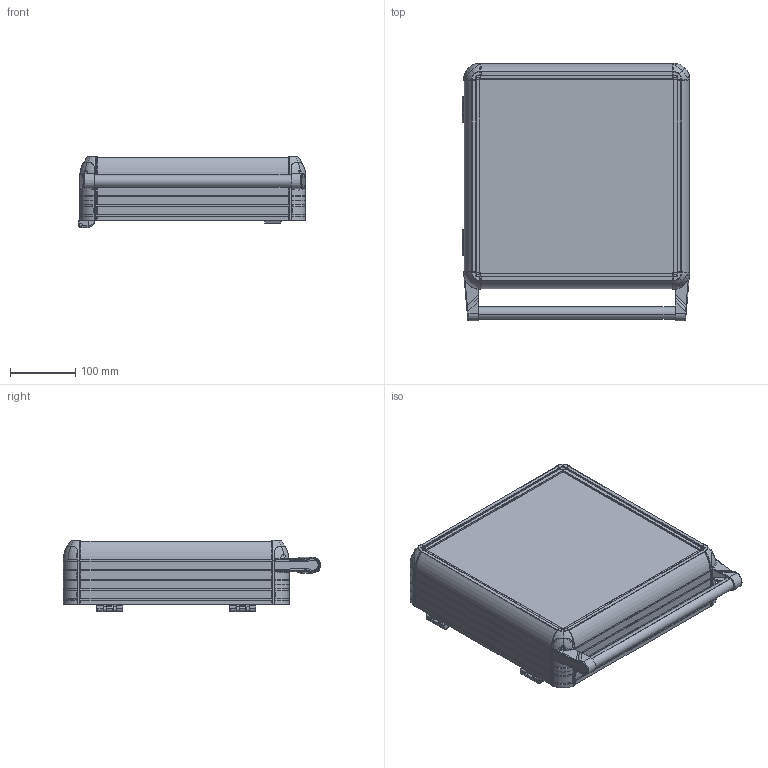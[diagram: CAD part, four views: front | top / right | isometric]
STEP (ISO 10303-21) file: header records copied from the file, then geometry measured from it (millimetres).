
FILE_DESCRIPTION (( 'STEP AP214' ), '1' );
FILE_NAME ('9000-0104.STEP', '2022-09-01T06:15:15', ( '' ), ( '' ), 'SwSTEP 2.0', 'SolidWorks 2022', '' );
FILE_SCHEMA (( 'AUTOMOTIVE_DESIGN' ));
Length unit declared in the file: millimetre
Products named in the file (8): ECO9000-0000; 300X300; boru_325; 9000-0104; ARKA_KAPAK_300X300; ECO9000-0100(SOL); ECO9000-0100(SAÐ); HPECO-090-001-295_295
Assembly tree (11 placements, depth 2):
  9000-0104
    300X300
    ARKA_KAPAK_300X300
    HPECO-090-001-295_295  x4
    ECO9000-0100(SAÐ)
    ECO9000-0100(SOL)
    ECO9000-0000  x2
    boru_325
Bounding box: 349.03 x 395.78 x 109.16 mm (x, y, z)
Volume: 2377580.2 mm3; surface area: 911667.5 mm2
Topology: 20 solids, 70 shells, 6197 faces, 16464 edges, 10156 vertices
Faces by surface type: plane 2464, cylinder 1672, bspline 1133, cone 578, torus 300, sphere 50
Entity records: 238955 total; most frequent: CARTESIAN_POINT 66767, ORIENTED_EDGE 27140, DIRECTION 21973, EDGE_CURVE 13570, VERTEX_POINT 8412, AXIS2_PLACEMENT_3D 7969, VECTOR 6035, LINE 6035
